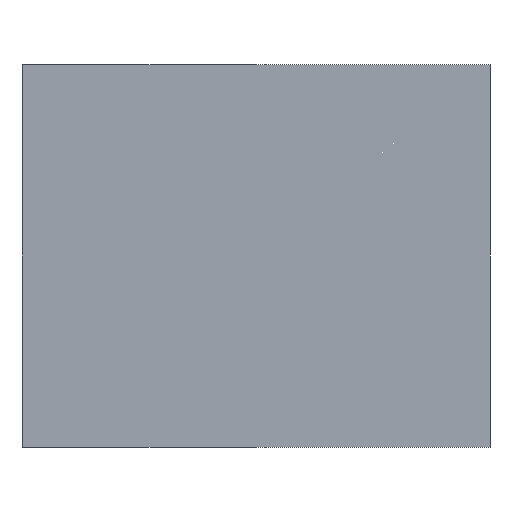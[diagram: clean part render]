
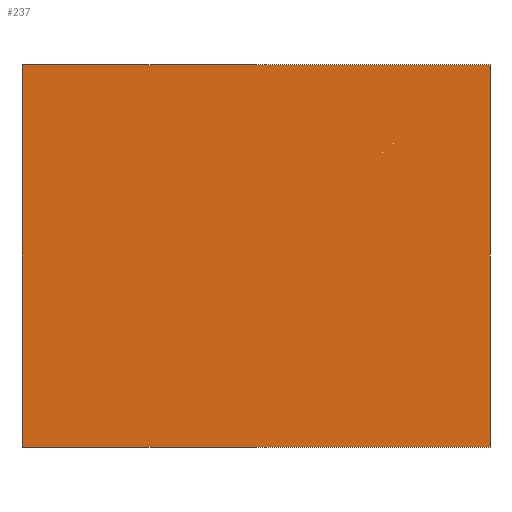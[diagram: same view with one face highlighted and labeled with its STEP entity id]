
A CAD part, front view. The second image highlights one B-rep face of the part: STEP entity #237.
In plain terms, the highlighted planar face has unit normal (0, -1, 0).
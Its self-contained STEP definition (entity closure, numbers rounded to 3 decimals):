
#24 = VERTEX_POINT('',#25);
#25 = CARTESIAN_POINT('',(-70.,-100.,56.));
#32 = PLANE('',#33);
#33 = AXIS2_PLACEMENT_3D('',#34,#35,#36);
#34 = CARTESIAN_POINT('',(-70.,-100.,38.));
#35 = DIRECTION('',(1.,0.,0.));
#36 = DIRECTION('',(0.,0.,1.));
#44 = PLANE('',#45);
#45 = AXIS2_PLACEMENT_3D('',#46,#47,#48);
#46 = CARTESIAN_POINT('',(-70.,-100.,56.));
#47 = DIRECTION('',(0.,0.,1.));
#48 = DIRECTION('',(1.,0.,0.));
#85 = VERTEX_POINT('',#86);
#86 = CARTESIAN_POINT('',(-70.,-100.,38.));
#100 = PLANE('',#101);
#101 = AXIS2_PLACEMENT_3D('',#102,#103,#104);
#102 = CARTESIAN_POINT('',(-70.,-100.,38.));
#103 = DIRECTION('',(0.,0.,1.));
#104 = DIRECTION('',(1.,0.,0.));
#112 = EDGE_CURVE('',#85,#24,#113,.T.);
#113 = SURFACE_CURVE('',#114,(#118,#125),.PCURVE_S1.);
#114 = LINE('',#115,#116);
#115 = CARTESIAN_POINT('',(-70.,-100.,38.));
#116 = VECTOR('',#117,1.);
#117 = DIRECTION('',(0.,0.,1.));
#118 = PCURVE('',#32,#119);
#119 = DEFINITIONAL_REPRESENTATION('',(#120),#124);
#120 = LINE('',#121,#122);
#121 = CARTESIAN_POINT('',(0.,0.));
#122 = VECTOR('',#123,1.);
#123 = DIRECTION('',(1.,0.));
#124 = ( GEOMETRIC_REPRESENTATION_CONTEXT(2) 
PARAMETRIC_REPRESENTATION_CONTEXT() REPRESENTATION_CONTEXT('2D SPACE',''
  ) );
#125 = PCURVE('',#126,#131);
#126 = PLANE('',#127);
#127 = AXIS2_PLACEMENT_3D('',#128,#129,#130);
#128 = CARTESIAN_POINT('',(-70.,-100.,38.));
#129 = DIRECTION('',(0.,1.,0.));
#130 = DIRECTION('',(0.,0.,1.));
#131 = DEFINITIONAL_REPRESENTATION('',(#132),#136);
#132 = LINE('',#133,#134);
#133 = CARTESIAN_POINT('',(0.,0.));
#134 = VECTOR('',#135,1.);
#135 = DIRECTION('',(1.,0.));
#136 = ( GEOMETRIC_REPRESENTATION_CONTEXT(2) 
PARAMETRIC_REPRESENTATION_CONTEXT() REPRESENTATION_CONTEXT('2D SPACE',''
  ) );
#141 = EDGE_CURVE('',#142,#144,#146,.T.);
#142 = VERTEX_POINT('',#143);
#143 = CARTESIAN_POINT('',(-48.,-100.,38.));
#144 = VERTEX_POINT('',#145);
#145 = CARTESIAN_POINT('',(-48.,-100.,56.));
#146 = SURFACE_CURVE('',#147,(#151,#163),.PCURVE_S1.);
#147 = LINE('',#148,#149);
#148 = CARTESIAN_POINT('',(-48.,-100.,38.));
#149 = VECTOR('',#150,1.);
#150 = DIRECTION('',(0.,0.,1.));
#151 = PCURVE('',#152,#157);
#152 = PLANE('',#153);
#153 = AXIS2_PLACEMENT_3D('',#154,#155,#156);
#154 = CARTESIAN_POINT('',(-48.,-100.,38.));
#155 = DIRECTION('',(1.,0.,0.));
#156 = DIRECTION('',(0.,0.,1.));
#157 = DEFINITIONAL_REPRESENTATION('',(#158),#162);
#158 = LINE('',#159,#160);
#159 = CARTESIAN_POINT('',(0.,0.));
#160 = VECTOR('',#161,1.);
#161 = DIRECTION('',(1.,0.));
#162 = ( GEOMETRIC_REPRESENTATION_CONTEXT(2) 
PARAMETRIC_REPRESENTATION_CONTEXT() REPRESENTATION_CONTEXT('2D SPACE',''
  ) );
#163 = PCURVE('',#126,#164);
#164 = DEFINITIONAL_REPRESENTATION('',(#165),#169);
#165 = LINE('',#166,#167);
#166 = CARTESIAN_POINT('',(0.,22.));
#167 = VECTOR('',#168,1.);
#168 = DIRECTION('',(1.,0.));
#169 = ( GEOMETRIC_REPRESENTATION_CONTEXT(2) 
PARAMETRIC_REPRESENTATION_CONTEXT() REPRESENTATION_CONTEXT('2D SPACE',''
  ) );
#237 = ADVANCED_FACE('',(#238),#126,.F.);
#238 = FACE_BOUND('',#239,.T.);
#239 = EDGE_LOOP('',(#240,#241,#262,#263));
#240 = ORIENTED_EDGE('',*,*,#141,.T.);
#241 = ORIENTED_EDGE('',*,*,#242,.F.);
#242 = EDGE_CURVE('',#24,#144,#243,.T.);
#243 = SURFACE_CURVE('',#244,(#248,#255),.PCURVE_S1.);
#244 = LINE('',#245,#246);
#245 = CARTESIAN_POINT('',(-70.,-100.,56.));
#246 = VECTOR('',#247,1.);
#247 = DIRECTION('',(1.,0.,0.));
#248 = PCURVE('',#126,#249);
#249 = DEFINITIONAL_REPRESENTATION('',(#250),#254);
#250 = LINE('',#251,#252);
#251 = CARTESIAN_POINT('',(18.,0.));
#252 = VECTOR('',#253,1.);
#253 = DIRECTION('',(0.,1.));
#254 = ( GEOMETRIC_REPRESENTATION_CONTEXT(2) 
PARAMETRIC_REPRESENTATION_CONTEXT() REPRESENTATION_CONTEXT('2D SPACE',''
  ) );
#255 = PCURVE('',#44,#256);
#256 = DEFINITIONAL_REPRESENTATION('',(#257),#261);
#257 = LINE('',#258,#259);
#258 = CARTESIAN_POINT('',(0.,0.));
#259 = VECTOR('',#260,1.);
#260 = DIRECTION('',(1.,0.));
#261 = ( GEOMETRIC_REPRESENTATION_CONTEXT(2) 
PARAMETRIC_REPRESENTATION_CONTEXT() REPRESENTATION_CONTEXT('2D SPACE',''
  ) );
#262 = ORIENTED_EDGE('',*,*,#112,.F.);
#263 = ORIENTED_EDGE('',*,*,#264,.T.);
#264 = EDGE_CURVE('',#85,#142,#265,.T.);
#265 = SURFACE_CURVE('',#266,(#270,#277),.PCURVE_S1.);
#266 = LINE('',#267,#268);
#267 = CARTESIAN_POINT('',(-70.,-100.,38.));
#268 = VECTOR('',#269,1.);
#269 = DIRECTION('',(1.,0.,0.));
#270 = PCURVE('',#126,#271);
#271 = DEFINITIONAL_REPRESENTATION('',(#272),#276);
#272 = LINE('',#273,#274);
#273 = CARTESIAN_POINT('',(0.,0.));
#274 = VECTOR('',#275,1.);
#275 = DIRECTION('',(0.,1.));
#276 = ( GEOMETRIC_REPRESENTATION_CONTEXT(2) 
PARAMETRIC_REPRESENTATION_CONTEXT() REPRESENTATION_CONTEXT('2D SPACE',''
  ) );
#277 = PCURVE('',#100,#278);
#278 = DEFINITIONAL_REPRESENTATION('',(#279),#283);
#279 = LINE('',#280,#281);
#280 = CARTESIAN_POINT('',(0.,0.));
#281 = VECTOR('',#282,1.);
#282 = DIRECTION('',(1.,0.));
#283 = ( GEOMETRIC_REPRESENTATION_CONTEXT(2) 
PARAMETRIC_REPRESENTATION_CONTEXT() REPRESENTATION_CONTEXT('2D SPACE',''
  ) );
